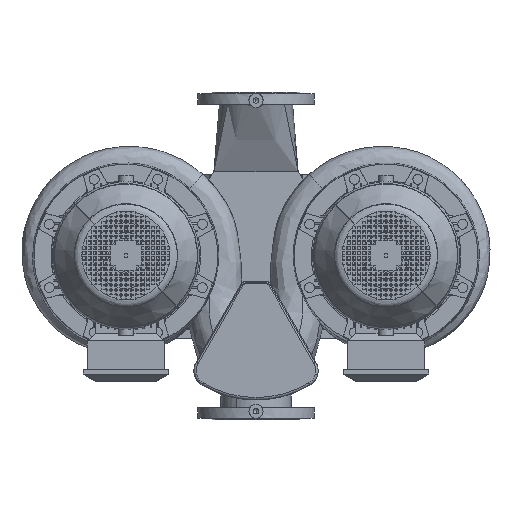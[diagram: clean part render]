
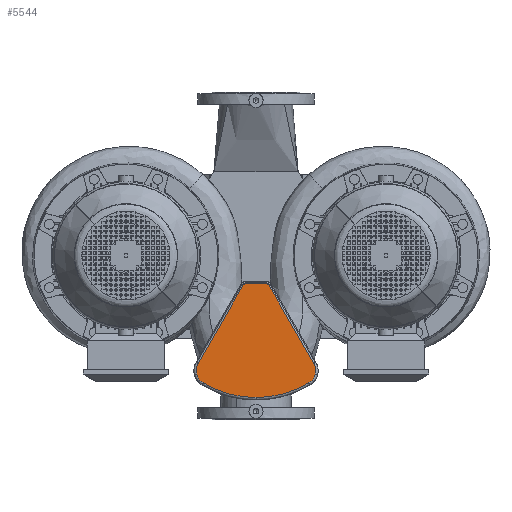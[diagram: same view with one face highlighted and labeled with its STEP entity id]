
A CAD part, top view. The second image highlights one B-rep face of the part: STEP entity #5544.
In plain terms, the highlighted planar face has unit normal (0, 0, 1).
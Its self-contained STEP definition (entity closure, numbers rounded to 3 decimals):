
#5544=ADVANCED_FACE('',(#15777),#15778,.T.);
#15777=FACE_OUTER_BOUND('',#30523,.T.);
#15778=PLANE('',#30524);
#30523=EDGE_LOOP('',(#56395,#56396,#56397,#56398,#56399,#56400,#56401,#56402,#56403,#56404,#56405,#56406,#56407));
#30524=AXIS2_PLACEMENT_3D('',#56408,#56409,#56410);
#56395=ORIENTED_EDGE('',*,*,#77980,.F.);
#56396=ORIENTED_EDGE('',*,*,#77970,.F.);
#56397=ORIENTED_EDGE('',*,*,#77964,.F.);
#56398=ORIENTED_EDGE('',*,*,#77986,.F.);
#56399=ORIENTED_EDGE('',*,*,#77960,.F.);
#56400=ORIENTED_EDGE('',*,*,#77954,.F.);
#56401=ORIENTED_EDGE('',*,*,#77991,.F.);
#56402=ORIENTED_EDGE('',*,*,#77949,.F.);
#56403=ORIENTED_EDGE('',*,*,#77994,.F.);
#56404=ORIENTED_EDGE('',*,*,#77944,.F.);
#56405=ORIENTED_EDGE('',*,*,#77998,.F.);
#56406=ORIENTED_EDGE('',*,*,#77940,.F.);
#56407=ORIENTED_EDGE('',*,*,#77974,.F.);
#56408=CARTESIAN_POINT('',(-22.7,54.5,100.0));
#56409=DIRECTION('',(0.0,0.0,1.0));
#56410=DIRECTION('',(1.0,0.0,0.0));
#77940=EDGE_CURVE('',#82328,#82330,#82331,.T.);
#77944=EDGE_CURVE('',#82334,#82337,#82338,.T.);
#77949=EDGE_CURVE('',#82343,#82346,#82347,.T.);
#77954=EDGE_CURVE('',#82352,#82355,#82356,.T.);
#77960=EDGE_CURVE('',#82355,#82365,#82366,.T.);
#77964=EDGE_CURVE('',#82369,#82372,#82373,.T.);
#77970=EDGE_CURVE('',#82372,#82382,#82383,.T.);
#77974=EDGE_CURVE('',#82386,#82328,#82389,.T.);
#77980=EDGE_CURVE('',#82382,#82386,#82397,.T.);
#77986=EDGE_CURVE('',#82365,#82369,#82404,.T.);
#77991=EDGE_CURVE('',#82346,#82352,#82409,.T.);
#77994=EDGE_CURVE('',#82337,#82343,#82412,.T.);
#77998=EDGE_CURVE('',#82330,#82334,#82417,.T.);
#82328=VERTEX_POINT('',#88608);
#82330=VERTEX_POINT('',#88610);
#82331=LINE('',#88611,#88612);
#82334=VERTEX_POINT('',#88615);
#82337=VERTEX_POINT('',#88618);
#82338=CIRCLE('',#88619,31.);
#82343=VERTEX_POINT('',#88624);
#82346=VERTEX_POINT('',#88627);
#82347=CIRCLE('',#88628,219.0);
#82352=VERTEX_POINT('',#88633);
#82355=VERTEX_POINT('',#88636);
#82356=CIRCLE('',#88637,31.0);
#82365=VERTEX_POINT('',#88647);
#82366=LINE('',#88648,#88649);
#82369=VERTEX_POINT('',#88652);
#82372=VERTEX_POINT('',#88655);
#82373=CIRCLE('',#88656,5.0);
#82382=VERTEX_POINT('',#88666);
#82383=LINE('',#88667,#88668);
#82386=VERTEX_POINT('',#88671);
#82389=CIRCLE('',#88674,5.0);
#82397=CIRCLE('',#88682,5.0);
#82404=CIRCLE('',#88690,5.0);
#82409=CIRCLE('',#88696,31.0);
#82412=CIRCLE('',#88699,219.0);
#82417=CIRCLE('',#88704,31.);
#88608=CARTESIAN_POINT('',(-27.03,62.0,100.0));
#88610=CARTESIAN_POINT('',(-123.569,229.21,100.0));
#88611=CARTESIAN_POINT('',(-24.865,58.25,100.0));
#88612=VECTOR('',#101095,1.0);
#88615=CARTESIAN_POINT('',(-126.732,252.482,100.0));
#88618=CARTESIAN_POINT('',(-112.671,271.293,100.0));
#88619=AXIS2_PLACEMENT_3D('',#101102,#101103,#101104);
#88624=CARTESIAN_POINT('',(0.,302.5,100.0));
#88627=CARTESIAN_POINT('',(112.671,271.293,100.0));
#88628=AXIS2_PLACEMENT_3D('',#101114,#101115,#101116);
#88633=CARTESIAN_POINT('',(126.732,252.482,100.0));
#88636=CARTESIAN_POINT('',(123.569,229.21,100.0));
#88637=AXIS2_PLACEMENT_3D('',#101126,#101127,#101128);
#88647=CARTESIAN_POINT('',(27.03,62.0,100.0));
#88648=CARTESIAN_POINT('',(67.46,132.026,100.0));
#88649=VECTOR('',#101139,1.);
#88652=CARTESIAN_POINT('',(25.2,60.17,100.0));
#88655=CARTESIAN_POINT('',(22.7,59.5,100.0));
#88656=AXIS2_PLACEMENT_3D('',#101146,#101147,#101148);
#88666=CARTESIAN_POINT('',(-22.7,59.5,100.0));
#88667=CARTESIAN_POINT('',(0.0,59.5,100.0));
#88668=VECTOR('',#101159,1.0);
#88671=CARTESIAN_POINT('',(-25.2,60.17,100.0));
#88674=AXIS2_PLACEMENT_3D('',#101166,#101167,#101168);
#88682=AXIS2_PLACEMENT_3D('',#101181,#101182,#101183);
#88690=AXIS2_PLACEMENT_3D('',#101191,#101192,#101193);
#88696=AXIS2_PLACEMENT_3D('',#101198,#101199,#101200);
#88699=AXIS2_PLACEMENT_3D('',#101204,#101205,#101206);
#88704=AXIS2_PLACEMENT_3D('',#101213,#101214,#101215);
#101095=DIRECTION('',(-0.5,0.866,0.0));
#101102=CARTESIAN_POINT('',(-96.722,244.71,100.0));
#101103=DIRECTION('',(0.0,0.0,-1.0));
#101104=DIRECTION('',(-0.968,0.251,0.0));
#101114=CARTESIAN_POINT('',(0.0,83.5,100.0));
#101115=DIRECTION('',(0.0,0.0,-1.0));
#101116=DIRECTION('',(0.,1.0,0.0));
#101126=CARTESIAN_POINT('',(96.722,244.71,100.0));
#101127=DIRECTION('',(0.0,0.0,-1.0));
#101128=DIRECTION('',(0.968,0.251,0.0));
#101139=DIRECTION('',(-0.5,-0.866,0.0));
#101146=CARTESIAN_POINT('',(22.7,64.5,100.0));
#101147=DIRECTION('',(0.0,0.0,-1.0));
#101148=DIRECTION('',(0.5,-0.866,0.0));
#101159=DIRECTION('',(-1.0,0.0,0.0));
#101166=CARTESIAN_POINT('',(-22.7,64.5,100.0));
#101167=DIRECTION('',(-0.0,0.0,-1.0));
#101168=DIRECTION('',(-0.5,-0.866,0.0));
#101181=CARTESIAN_POINT('',(-22.7,64.5,100.0));
#101182=DIRECTION('',(-0.0,0.0,-1.0));
#101183=DIRECTION('',(-0.5,-0.866,0.0));
#101191=CARTESIAN_POINT('',(22.7,64.5,100.0));
#101192=DIRECTION('',(0.0,0.0,-1.0));
#101193=DIRECTION('',(0.5,-0.866,0.0));
#101198=CARTESIAN_POINT('',(96.722,244.71,100.0));
#101199=DIRECTION('',(0.0,0.0,-1.0));
#101200=DIRECTION('',(0.968,0.251,0.0));
#101204=CARTESIAN_POINT('',(0.0,83.5,100.0));
#101205=DIRECTION('',(0.0,0.0,-1.0));
#101206=DIRECTION('',(0.,1.0,0.0));
#101213=CARTESIAN_POINT('',(-96.722,244.71,100.0));
#101214=DIRECTION('',(0.0,0.0,-1.0));
#101215=DIRECTION('',(-0.968,0.251,0.0));
